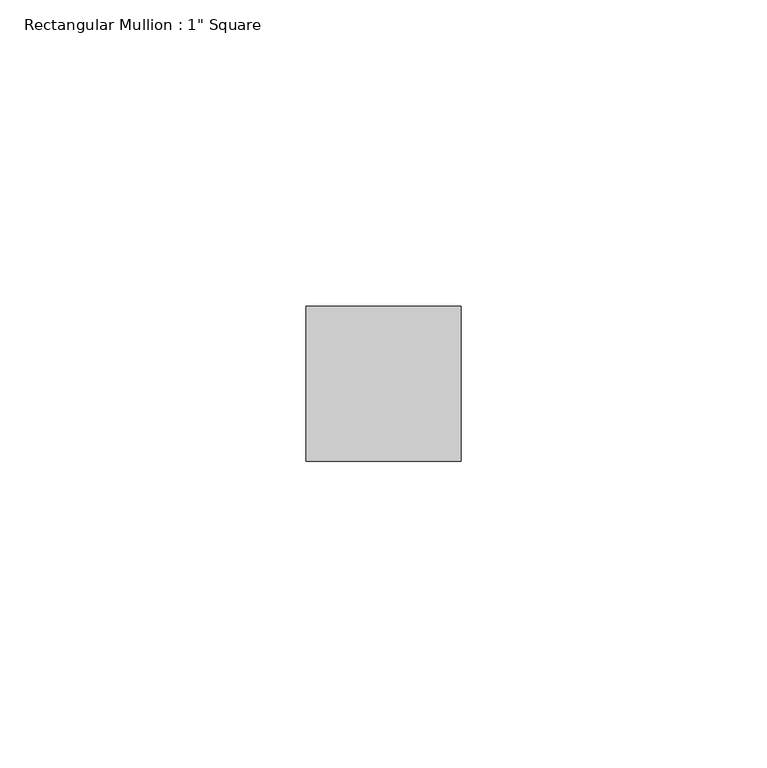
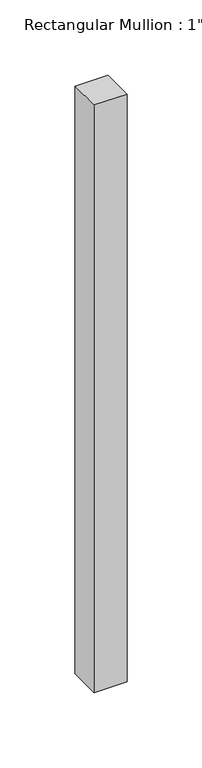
"""IFC4 building model written with IfcOpenShell, lengths in millimetres: member geometry."""

import ifcopenshell
import ifcopenshell.guid

model = None  # the IFC model being written
_history = None  # IfcOwnerHistory: only IFC2X3 demands one
_inside = {}  # id of a spatial element -> (the spatial element, [elements in it])
_under = {}  # id of a project, library or spatial element -> (it, [spatial elements below it])
_declared = {}  # id of a project -> (the project, [libraries it declares])
_typed = {}  # id of a type object -> (the type object, [elements of that type])
_made_of = {}  # id of a material, layer set ... -> (it, [elements and type objects made of it])


def new_model(schema):
    """Start an empty IFC model of exactly this schema.

    Asked for "IFC4X3", IfcOpenShell would pick the latest addendum, in which some entities
    have other attributes; the version numbers below select the first issue.
    IFC2X3 requires an IfcOwnerHistory on every rooted entity: one is made here for all.
    """
    global model, _history
    if schema == "IFC4X3":
        model = ifcopenshell.file(schema_version=(4, 3, 0, 0))
    else:
        model = ifcopenshell.file(schema=schema)
    _inside.clear()
    _under.clear()
    _declared.clear()
    _typed.clear()
    _made_of.clear()
    _history = None
    if model.schema == "IFC2X3":
        org = make("IfcOrganization", Name="unknown")
        user = make(
            "IfcPersonAndOrganization",
            ThePerson=make("IfcPerson", FamilyName="unknown"),
            TheOrganization=org,
        )
        app = make(
            "IfcApplication",
            ApplicationDeveloper=org,
            Version="unknown",
            ApplicationFullName="unknown",
            ApplicationIdentifier="unknown",
        )
        _history = make(
            "IfcOwnerHistory",
            OwningUser=user,
            OwningApplication=app,
            ChangeAction="ADDED",
            CreationDate=0,
        )
    return model


def make(cls, **values):
    """One entity of the class cls with the attributes given. An attribute that is None is left unset."""
    return model.create_entity(
        cls, **{name: value for name, value in values.items() if value is not None}
    )


def rooted(cls, **values):
    """An entity with a GlobalId (a new one), such as an element, a storey or a relation."""
    return make(cls, GlobalId=ifcopenshell.guid.new(), OwnerHistory=_history, **values)


def si_unit(unit_type, name, prefix=None):
    """IfcSIUnit, for example si_unit("LENGTHUNIT", "METRE", prefix="MILLI")."""
    return make("IfcSIUnit", UnitType=unit_type, Prefix=prefix, Name=name)


def assignment(units):
    """IfcUnitAssignment: the units of a project."""
    return None if units is None else make("IfcUnitAssignment", Units=units)


def point(xyz):
    """IfcCartesianPoint."""
    return None if xyz is None else make("IfcCartesianPoint", Coordinates=xyz)


def direction(xyz):
    """IfcDirection."""
    return None if xyz is None else make("IfcDirection", DirectionRatios=xyz)


def frame(location, z_axis=None, x_axis=None):
    """IfcAxis2Placement3D, a coordinate frame: its origin and axes. An axis left out is left unset."""
    return make(
        "IfcAxis2Placement3D",
        Location=point(location),
        Axis=direction(z_axis),
        RefDirection=direction(x_axis),
    )


def origin():
    """The frame at (0, 0, 0) with its axes left unset."""
    return frame((0.0, 0.0, 0.0))


def place(relative_to, where):
    """IfcLocalPlacement: puts the frame where relative to a parent placement (None: the world)."""
    return make(
        "IfcLocalPlacement", PlacementRelTo=relative_to, RelativePlacement=where
    )


def context(
    kind, dimensions, precision=None, world=None, true_north=None, identifier=None
):
    """IfcGeometricRepresentationContext, for example the 3D "Model" context."""
    return make(
        "IfcGeometricRepresentationContext",
        ContextIdentifier=identifier,
        ContextType=kind,
        CoordinateSpaceDimension=dimensions,
        Precision=precision,
        WorldCoordinateSystem=world,
        TrueNorth=true_north,
    )


def project(units=None, contexts=None):
    """IfcProject with its units and contexts."""
    return rooted(
        "IfcProject",
        Name="project",
        RepresentationContexts=contexts,
        UnitsInContext=assignment(units),
    )


def spatial(cls, under=None, at=None, **own):
    """A site, building, storey or space (cls), placed at a placement, below another one or the project."""
    s = rooted(cls, ObjectPlacement=at, **own)
    if under is not None:
        _under.setdefault(under.id(), (under, []))[1].append(s)
    return s


def polyline(points):
    """IfcPolyline through the points."""
    return make("IfcPolyline", Points=[point(p) for p in points])


def outline(outer, holes=None, kind="AREA"):
    """IfcArbitraryClosedProfileDef: a profile drawn as a closed curve; with holes, ...WithVoids."""
    if holes is None:
        return make("IfcArbitraryClosedProfileDef", ProfileType=kind, OuterCurve=outer)
    return make(
        "IfcArbitraryProfileDefWithVoids",
        ProfileType=kind,
        OuterCurve=outer,
        InnerCurves=holes,
    )


def extrude(swept, where, along, depth):
    """IfcExtrudedAreaSolid: the profile swept, set in the frame where, extruded along a direction by depth."""
    return make(
        "IfcExtrudedAreaSolid",
        SweptArea=swept,
        Position=where,
        ExtrudedDirection=direction(along),
        Depth=depth,
    )


def shape(context_of_items, identifier, shape_type, items):
    """IfcShapeRepresentation: the items that make up one representation, for example the "Body"."""
    return make(
        "IfcShapeRepresentation",
        ContextOfItems=context_of_items,
        RepresentationIdentifier=identifier,
        RepresentationType=shape_type,
        Items=items,
    )


def source(mapping_origin, context_of_items, identifier, shape_type, items):
    """IfcRepresentationMap: a shape defined once, which mapped items show again and again."""
    return make(
        "IfcRepresentationMap",
        MappingOrigin=mapping_origin,
        MappedRepresentation=shape(context_of_items, identifier, shape_type, items),
    )


def transform(
    local_origin,
    x_axis=None,
    y_axis=None,
    z_axis=None,
    scale=None,
    scale2=None,
    scale3=None,
    uniform=True,
):
    """IfcCartesianTransformationOperator3D, or its non-uniform kind. x_axis, y_axis, z_axis: its Axis1, 2, 3."""
    if uniform:
        return make(
            "IfcCartesianTransformationOperator3D",
            Axis1=direction(x_axis),
            Axis2=direction(y_axis),
            LocalOrigin=point(local_origin),
            Scale=scale,
            Axis3=direction(z_axis),
        )
    return make(
        "IfcCartesianTransformationOperator3DnonUniform",
        Axis1=direction(x_axis),
        Axis2=direction(y_axis),
        LocalOrigin=point(local_origin),
        Scale=scale,
        Axis3=direction(z_axis),
        Scale2=scale2,
        Scale3=scale3,
    )


def mapped(mapping_source, mapping_target):
    """IfcMappedItem: shows the shape of a source again, moved by a transform."""
    return make(
        "IfcMappedItem", MappingSource=mapping_source, MappingTarget=mapping_target
    )


def made_of(thing, what):
    """Note that an element or type object is made of a material, layer set ...; save() writes the relation."""
    if what is not None:
        _made_of.setdefault(what.id(), (what, []))[1].append(thing)
    return thing


def element(
    cls,
    number,
    at=None,
    inside=None,
    cuts=None,
    type_object=None,
    material=None,
    context=None,
    identifier="Body",
    shape_type=None,
    held_by="IfcProductDefinitionShape",
    body=None,
    shapes=None,
    **own,
):
    """One element of the class cls, such as IfcWall. Its Tag is "e" and its number.

    at: its placement. inside: the storey or other place that contains it. cuts: it is an
    opening in that element (IfcRelVoidsElement). A single representation is given by context,
    identifier, shape_type and body (its items); several are given by shapes. held_by: the class
    of the entity that holds the representations. save() writes the other relations.
    """
    e = rooted(cls, Tag="e%d" % number, ObjectPlacement=at, **own)
    if body is not None:
        shapes = [shape(context, identifier, shape_type, body)]
    if shapes is not None:
        e.Representation = make(held_by, Representations=shapes)
    if inside is not None:
        _inside.setdefault(inside.id(), (inside, []))[1].append(e)
    if cuts is not None:
        rooted(
            "IfcRelVoidsElement", RelatingBuildingElement=cuts, RelatedOpeningElement=e
        )
    if type_object is not None:
        _typed.setdefault(type_object.id(), (type_object, []))[1].append(e)
    return made_of(e, material)


def aggregate(whole, parts):
    """IfcRelAggregates: a whole, such as a stair, and the parts it consists of."""
    return rooted("IfcRelAggregates", RelatingObject=whole, RelatedObjects=parts)


def save(model, path):
    """Write the relations noted so far, then the file.

    IfcRelAggregates (storeys below a building ...), IfcRelContainedInSpatialStructure (elements
    in a storey), IfcRelDefinesByType, IfcRelAssociatesMaterial and IfcRelDeclares: one each for
    every whole, place, type object, material and project.
    """
    for whole, parts in _under.values():
        aggregate(whole, parts)
    for where, things in _inside.values():
        rooted(
            "IfcRelContainedInSpatialStructure",
            RelatedElements=things,
            RelatingStructure=where,
        )
    for kind, things in _typed.values():
        rooted("IfcRelDefinesByType", RelatedObjects=things, RelatingType=kind)
    for what, things in _made_of.values():
        rooted("IfcRelAssociatesMaterial", RelatedObjects=things, RelatingMaterial=what)
    for by, libraries in _declared.values():
        rooted("IfcRelDeclares", RelatingContext=by, RelatedDefinitions=libraries)
    model.write(path)


def member_87472d51(model_context):
    return source(origin(), model_context, "Body", "SweptSolid", [
        extrude(outline(polyline([(12.7, 12.7), (12.7, -12.7), (-12.7, -12.7), (-12.7, 12.7), (12.7, 12.7)])), frame((0.0, 0.0, -477.9486741), z_axis=(0.0, 0.0, 1.0), x_axis=(1.0, 0.0, 0.0)), (0.0, 0.0, 1.0), 477.9486741),
    ])


if __name__ == "__main__":
    model = new_model("IFC4")
    model_context = context("Model", 3, world=origin())
    ifc_project = project(units=[si_unit("LENGTHUNIT", "METRE", prefix="MILLI")], contexts=[model_context])
    site = spatial("IfcSite", under=ifc_project)
    building = spatial("IfcBuilding", under=site)
    placement = place(None, origin())
    member_shape = member_87472d51(model_context)
    element("IfcMember", 1, ObjectType="Rectangular Mullion : 1\" Square", at=placement, inside=building, context=model_context, shape_type="MappedRepresentation", body=[
        mapped(member_shape, transform((0.0, 0.0, 0.0), x_axis=(1.0, 0.0, 0.0), y_axis=(0.0, 1.0, 0.0), z_axis=(0.0, 0.0, 1.0))),
    ])
    save(model, "model.ifc")
